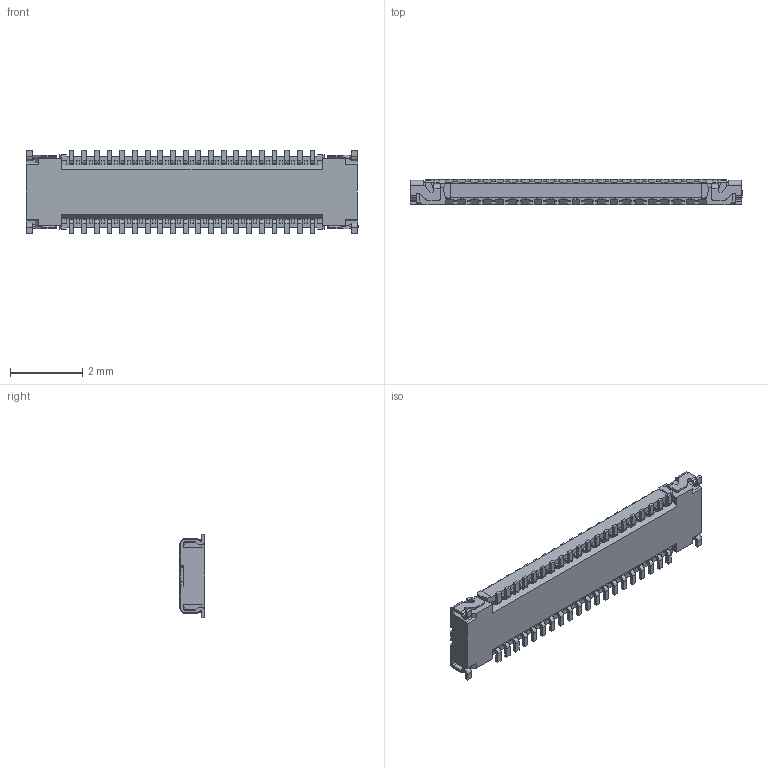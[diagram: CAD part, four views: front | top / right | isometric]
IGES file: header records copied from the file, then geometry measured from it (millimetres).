
Start section: SolidWorks IGES file using analytic representation for surfaces
Global section: file name: \\3D-CAD-16\3dwork\ota\novastack35-p 3d\20708-040EC+20709-040EC MATING IGES R1R1.IGS; native system: SolidWorks 2014; preprocessor: SolidWorks 2014; author: 3dcad; date: 161209.103910; units: millimetre
Bounding box: 9.17 x 0.7 x 2.3 mm (x, y, z)
Surface area: 120 mm2 (no closed solid volume)
Topology: 0 solids, 0 shells, 3967 faces, 21878 edges, 21870 vertices
Faces by surface type: bspline 2751, revolution 1216
